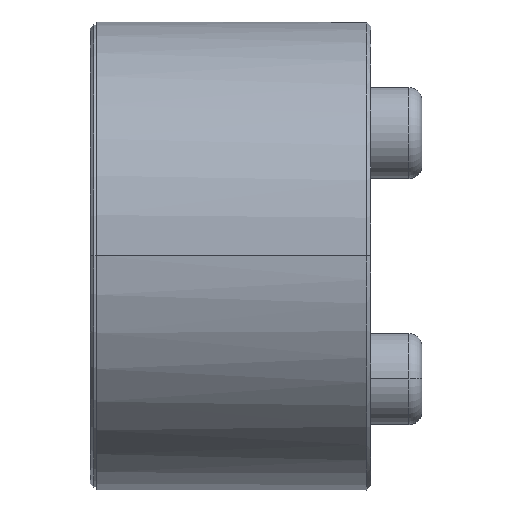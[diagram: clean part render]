
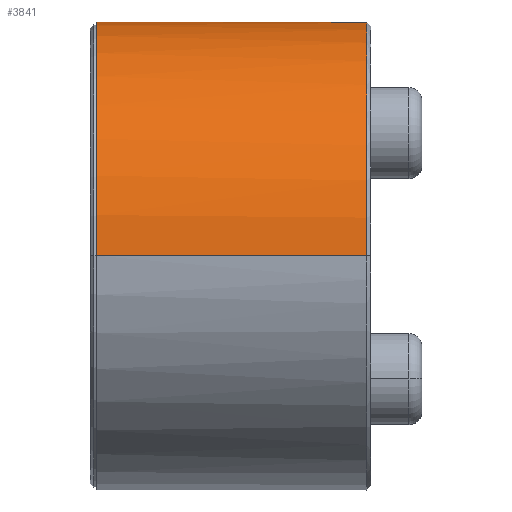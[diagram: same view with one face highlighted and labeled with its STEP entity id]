
A CAD part, top view. The second image highlights one B-rep face of the part: STEP entity #3841.
In plain terms, the highlighted cylindrical face has radius 17.5 mm (diameter 35 mm), a partial arc.
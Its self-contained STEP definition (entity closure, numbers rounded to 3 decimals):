
#48 = CARTESIAN_POINT ( 'NONE',  ( 20.686, -0.001, -17.5 ) ) ;
#56 = CARTESIAN_POINT ( 'NONE',  ( 0.486, 0., 17.5 ) ) ;
#85 = CARTESIAN_POINT ( 'NONE',  ( 20.686, 13.914, 10.675 ) ) ;
#215 = EDGE_LOOP ( 'NONE', ( #2172, #3530, #1568, #1671 ) ) ;
#222 = VERTEX_POINT ( 'NONE', #2569 ) ;
#260 = EDGE_CURVE ( 'NONE', #222, #2493, #3328, .T. ) ;
#341 = DIRECTION ( 'NONE',  ( -1., 0., 0. ) ) ;
#374 = CARTESIAN_POINT ( 'NONE',  ( 20.686, 7.755, 15.73 ) ) ;
#416 = CARTESIAN_POINT ( 'NONE',  ( 20.686, 17.5, -1.145 ) ) ;
#704 = CARTESIAN_POINT ( 'NONE',  ( 20.686, 15.187, -8.77 ) ) ;
#728 = CARTESIAN_POINT ( 'NONE',  ( 20.686, 15.187, 8.77 ) ) ;
#750 = CARTESIAN_POINT ( 'NONE',  ( 0.486, 0., 0. ) ) ;
#781 = CARTESIAN_POINT ( 'NONE',  ( 20.686, 2.29, -17.387 ) ) ;
#1046 = CARTESIAN_POINT ( 'NONE',  ( 20.686, -0.001, 17.5 ) ) ;
#1050 = DIRECTION ( 'NONE',  ( 1., 0., 0. ) ) ;
#1101 = CARTESIAN_POINT ( 'NONE',  ( 20.686, 4.537, -16.94 ) ) ;
#1216 = DIRECTION ( 'NONE',  ( 0., 0., 1. ) ) ;
#1222 = B_SPLINE_CURVE_WITH_KNOTS ( 'NONE', 3,
 ( #1046, #2407, #3094, #1395, #3346, #374, #2046, #1699, #3732, #2082, #85, #728, #3073, #4097, #3384, #3404, #2707, #416, #1436, #1415, #3366, #1456, #704, #4074, #2423, #2725, #3014, #3746, #2368, #3693, #1101, #781, #2766, #48 ),
 .UNSPECIFIED., .F., .F.,
 ( 4, 2, 2, 2, 2, 2, 2, 2, 2, 2, 2, 2, 2, 2, 2, 2, 4 ),
 ( 0.245, 0.277, 0.309, 0.341, 0.373, 0.405, 0.436, 0.468, 0.5, 0.532, 0.564, 0.595, 0.627, 0.659, 0.691, 0.723, 0.755 ),
 .UNSPECIFIED. ) ;
#1332 = CIRCLE ( 'NONE', #1890, 17.5 ) ;
#1395 = CARTESIAN_POINT ( 'NONE',  ( 20.686, 4.537, 16.94 ) ) ;
#1415 = CARTESIAN_POINT ( 'NONE',  ( 20.686, 16.94, -4.538 ) ) ;
#1436 = CARTESIAN_POINT ( 'NONE',  ( 20.686, 17.387, -2.291 ) ) ;
#1456 = CARTESIAN_POINT ( 'NONE',  ( 20.686, 15.73, -7.755 ) ) ;
#1568 = ORIENTED_EDGE ( 'NONE', *, *, #2693, .T. ) ;
#1570 = FACE_OUTER_BOUND ( 'NONE', #215, .T. ) ;
#1591 = EDGE_CURVE ( 'NONE', #3339, #2493, #1222, .T. ) ;
#1671 = ORIENTED_EDGE ( 'NONE', *, *, #1591, .T. ) ;
#1699 = CARTESIAN_POINT ( 'NONE',  ( 20.686, 10.675, 13.915 ) ) ;
#1871 = DIRECTION ( 'NONE',  ( 1., 0., 0. ) ) ;
#1890 = AXIS2_PLACEMENT_3D ( 'NONE', #750, #341, #3720 ) ;
#2046 = CARTESIAN_POINT ( 'NONE',  ( 20.686, 8.77, 15.187 ) ) ;
#2082 = CARTESIAN_POINT ( 'NONE',  ( 20.686, 13.184, 11.565 ) ) ;
#2172 = ORIENTED_EDGE ( 'NONE', *, *, #260, .F. ) ;
#2368 = CARTESIAN_POINT ( 'NONE',  ( 20.686, 7.755, -15.73 ) ) ;
#2394 = VECTOR ( 'NONE', #3817, 1000. ) ;
#2407 = CARTESIAN_POINT ( 'NONE',  ( 20.686, 1.145, 17.5 ) ) ;
#2423 = CARTESIAN_POINT ( 'NONE',  ( 20.686, 13.184, -11.565 ) ) ;
#2493 = VERTEX_POINT ( 'NONE', #3977 ) ;
#2569 = CARTESIAN_POINT ( 'NONE',  ( 0.486, 0., -17.5 ) ) ;
#2671 = CARTESIAN_POINT ( 'NONE',  ( 0.486, 0., -17.5 ) ) ;
#2693 = EDGE_CURVE ( 'NONE', #3141, #3339, #4212, .T. ) ;
#2707 = CARTESIAN_POINT ( 'NONE',  ( 20.686, 17.5, 1.145 ) ) ;
#2725 = CARTESIAN_POINT ( 'NONE',  ( 20.686, 11.564, -13.184 ) ) ;
#2766 = CARTESIAN_POINT ( 'NONE',  ( 20.686, 1.145, -17.5 ) ) ;
#2798 = VECTOR ( 'NONE', #1050, 1000. ) ;
#3014 = CARTESIAN_POINT ( 'NONE',  ( 20.686, 10.675, -13.915 ) ) ;
#3073 = CARTESIAN_POINT ( 'NONE',  ( 20.686, 15.73, 7.755 ) ) ;
#3094 = CARTESIAN_POINT ( 'NONE',  ( 20.686, 2.29, 17.387 ) ) ;
#3100 = CARTESIAN_POINT ( 'NONE',  ( 20.686, -0.001, 17.5 ) ) ;
#3141 = VERTEX_POINT ( 'NONE', #56 ) ;
#3212 = EDGE_CURVE ( 'NONE', #3141, #222, #1332, .T. ) ;
#3255 = CYLINDRICAL_SURFACE ( 'NONE', #4210, 17.5 ) ;
#3328 = LINE ( 'NONE', #2671, #2798 ) ;
#3339 = VERTEX_POINT ( 'NONE', #3100 ) ;
#3346 = CARTESIAN_POINT ( 'NONE',  ( 20.686, 5.638, 16.606 ) ) ;
#3366 = CARTESIAN_POINT ( 'NONE',  ( 20.686, 16.606, -5.639 ) ) ;
#3384 = CARTESIAN_POINT ( 'NONE',  ( 20.686, 16.94, 4.538 ) ) ;
#3404 = CARTESIAN_POINT ( 'NONE',  ( 20.686, 17.387, 2.291 ) ) ;
#3492 = CARTESIAN_POINT ( 'NONE',  ( 0.486, 0., 17.5 ) ) ;
#3530 = ORIENTED_EDGE ( 'NONE', *, *, #3212, .F. ) ;
#3693 = CARTESIAN_POINT ( 'NONE',  ( 20.686, 5.638, -16.606 ) ) ;
#3720 = DIRECTION ( 'NONE',  ( 0., -0.998, 0.057 ) ) ;
#3732 = CARTESIAN_POINT ( 'NONE',  ( 20.686, 11.564, 13.184 ) ) ;
#3746 = CARTESIAN_POINT ( 'NONE',  ( 20.686, 8.77, -15.187 ) ) ;
#3817 = DIRECTION ( 'NONE',  ( 1., 0., 0. ) ) ;
#3841 = ADVANCED_FACE ( 'NONE', ( #1570 ), #3255, .T. ) ;
#3977 = CARTESIAN_POINT ( 'NONE',  ( 20.686, -0.001, -17.5 ) ) ;
#4074 = CARTESIAN_POINT ( 'NONE',  ( 20.686, 13.914, -10.675 ) ) ;
#4097 = CARTESIAN_POINT ( 'NONE',  ( 20.686, 16.606, 5.639 ) ) ;
#4210 = AXIS2_PLACEMENT_3D ( 'NONE', #4218, #1871, #1216 ) ;
#4212 = LINE ( 'NONE', #3492, #2394 ) ;
#4218 = CARTESIAN_POINT ( 'NONE',  ( 0.486, 0., 0. ) ) ;
